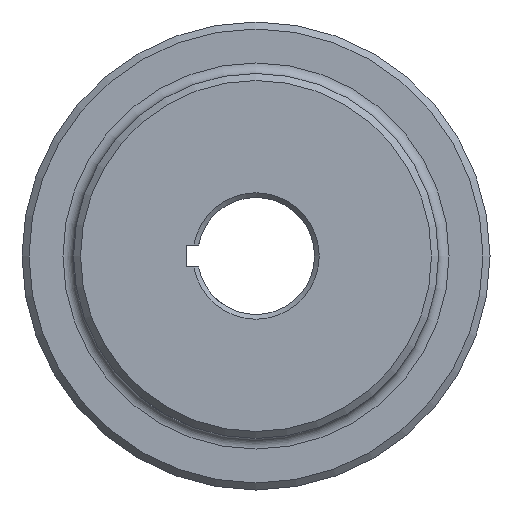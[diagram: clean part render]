
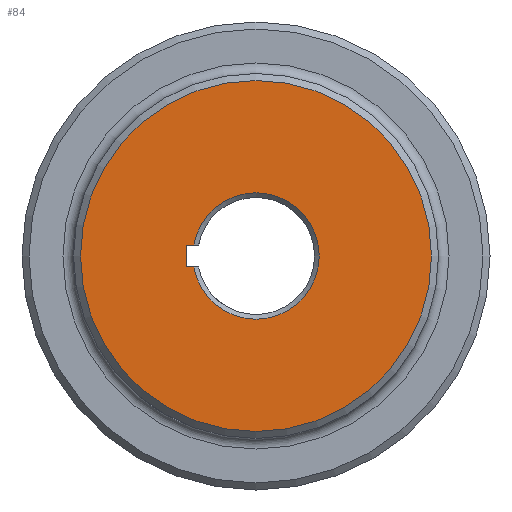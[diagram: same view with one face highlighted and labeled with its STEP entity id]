
A CAD part, left-side view. The second image highlights one B-rep face of the part: STEP entity #84.
In plain terms, the highlighted planar face has unit normal (-1, 0, 0).
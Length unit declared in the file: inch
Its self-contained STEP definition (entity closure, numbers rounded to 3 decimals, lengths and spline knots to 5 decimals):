
#81 = CARTESIAN_POINT ( 'NONE',  ( 0., 0., 0.0935 ) ) ;
#84 = ADVANCED_FACE ( 'NONE', ( #865, #180 ), #616, .F. ) ;
#130 = EDGE_CURVE ( 'NONE', #739, #739, #817, .T. ) ;
#147 = CARTESIAN_POINT ( 'NONE',  ( 0., 0., 0. ) ) ;
#180 = FACE_BOUND ( 'NONE', #1263, .T. ) ;
#203 = CARTESIAN_POINT ( 'NONE',  ( 0., 0.532, 0.0935 ) ) ;
#219 = VERTEX_POINT ( 'NONE', #300 ) ;
#253 = AXIS2_PLACEMENT_3D ( 'NONE', #2093, #549, #1872 ) ;
#300 = CARTESIAN_POINT ( 'NONE',  ( 0., 0.59085, 0.0935 ) ) ;
#304 = CARTESIAN_POINT ( 'NONE',  ( 0., 0., -0.0935 ) ) ;
#318 = CARTESIAN_POINT ( 'NONE',  ( 0., 0., 0. ) ) ;
#337 = CIRCLE ( 'NONE', #1900, 0.54015 ) ;
#344 = CARTESIAN_POINT ( 'NONE',  ( 0., 0., -1.5 ) ) ;
#378 = DIRECTION ( 'NONE',  ( 0., -1., 0. ) ) ;
#485 = LINE ( 'NONE', #81, #1368 ) ;
#492 = CARTESIAN_POINT ( 'NONE',  ( 0., 0.59085, -0.0935 ) ) ;
#549 = DIRECTION ( 'NONE',  ( 1., 0., 0. ) ) ;
#616 = PLANE ( 'NONE',  #253 ) ;
#739 = VERTEX_POINT ( 'NONE', #344 ) ;
#748 = EDGE_CURVE ( 'NONE', #219, #1976, #2210, .T. ) ;
#817 = CIRCLE ( 'NONE', #1070, 1.5 ) ;
#865 = FACE_OUTER_BOUND ( 'NONE', #1301, .T. ) ;
#894 = VERTEX_POINT ( 'NONE', #932 ) ;
#896 = DIRECTION ( 'NONE',  ( 0., 0., -1. ) ) ;
#903 = EDGE_CURVE ( 'NONE', #1222, #894, #337, .T. ) ;
#910 = ORIENTED_EDGE ( 'NONE', *, *, #1437, .F. ) ;
#922 = LINE ( 'NONE', #304, #1195 ) ;
#932 = CARTESIAN_POINT ( 'NONE',  ( 0., 0.532, -0.0935 ) ) ;
#1070 = AXIS2_PLACEMENT_3D ( 'NONE', #147, #1648, #1464 ) ;
#1098 = ORIENTED_EDGE ( 'NONE', *, *, #1545, .F. ) ;
#1195 = VECTOR ( 'NONE', #378, 39.37008 ) ;
#1222 = VERTEX_POINT ( 'NONE', #203 ) ;
#1236 = DIRECTION ( 'NONE',  ( 0., 1., 0. ) ) ;
#1263 = EDGE_LOOP ( 'NONE', ( #1098, #2290, #910, #2279 ) ) ;
#1301 = EDGE_LOOP ( 'NONE', ( #1535 ) ) ;
#1368 = VECTOR ( 'NONE', #1236, 39.37008 ) ;
#1437 = EDGE_CURVE ( 'NONE', #1976, #894, #922, .T. ) ;
#1464 = DIRECTION ( 'NONE',  ( 0., 0., -1. ) ) ;
#1535 = ORIENTED_EDGE ( 'NONE', *, *, #130, .T. ) ;
#1545 = EDGE_CURVE ( 'NONE', #1222, #219, #485, .T. ) ;
#1605 = VECTOR ( 'NONE', #2349, 39.37008 ) ;
#1648 = DIRECTION ( 'NONE',  ( -1., 0., 0. ) ) ;
#1872 = DIRECTION ( 'NONE',  ( 0., 0., -1. ) ) ;
#1900 = AXIS2_PLACEMENT_3D ( 'NONE', #318, #2341, #896 ) ;
#1945 = CARTESIAN_POINT ( 'NONE',  ( 0., 0.59085, -0.0935 ) ) ;
#1976 = VERTEX_POINT ( 'NONE', #492 ) ;
#2093 = CARTESIAN_POINT ( 'NONE',  ( 0., 0., 0. ) ) ;
#2210 = LINE ( 'NONE', #1945, #1605 ) ;
#2279 = ORIENTED_EDGE ( 'NONE', *, *, #748, .F. ) ;
#2290 = ORIENTED_EDGE ( 'NONE', *, *, #903, .T. ) ;
#2341 = DIRECTION ( 'NONE',  ( 1., 0., 0. ) ) ;
#2349 = DIRECTION ( 'NONE',  ( 0., 0., -1. ) ) ;
